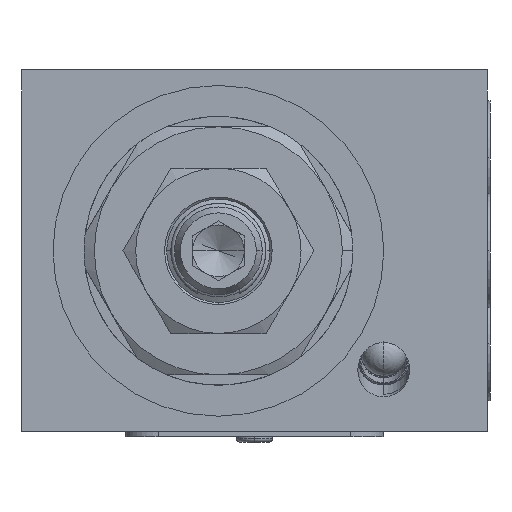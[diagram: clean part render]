
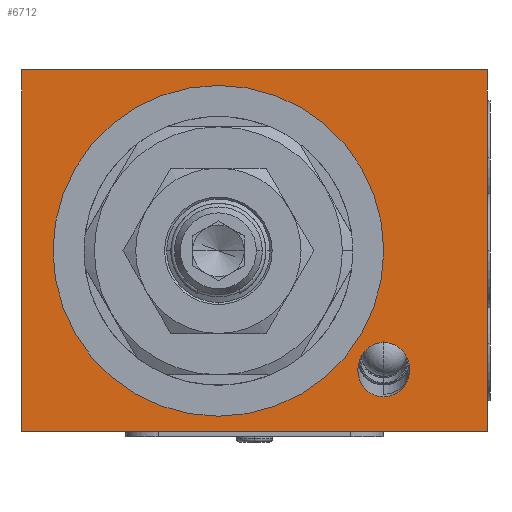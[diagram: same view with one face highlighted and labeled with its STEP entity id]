
A CAD part, left-side view. The second image highlights one B-rep face of the part: STEP entity #6712.
In plain terms, the highlighted planar face has unit normal (-1, 0, 0).
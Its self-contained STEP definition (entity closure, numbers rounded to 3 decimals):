
#60=DIRECTION('',(0.,1.,0.));
#61=VECTOR('',#60,35.);
#62=CARTESIAN_POINT('',(0.,0.,0.));
#63=LINE('',#62,#61);
#257=DIRECTION('',(0.,0.,1.));
#258=VECTOR('',#257,45.);
#259=CARTESIAN_POINT('',(0.,0.,-45.));
#260=LINE('',#259,#258);
#390=DIRECTION('',(0.,0.,1.));
#391=VECTOR('',#390,45.);
#392=CARTESIAN_POINT('',(0.,35.,-45.));
#393=LINE('',#392,#391);
#397=CARTESIAN_POINT('',(0.,8.629,-10.));
#398=CARTESIAN_POINT('',(0.,8.629,-9.786));
#399=CARTESIAN_POINT('',(0.,8.574,-9.413));
#400=CARTESIAN_POINT('',(0.,8.401,-8.946));
#401=CARTESIAN_POINT('',(0.,8.157,-8.548));
#402=CARTESIAN_POINT('',(0.,7.854,-8.21));
#403=CARTESIAN_POINT('',(0.,7.495,-7.928));
#404=CARTESIAN_POINT('',(0.,7.078,-7.704));
#405=CARTESIAN_POINT('',(0.,6.594,-7.547));
#406=CARTESIAN_POINT('',(0.,6.214,-7.5));
#407=CARTESIAN_POINT('',(0.,6.,-7.5));
#412=CARTESIAN_POINT('',(0.,17.5,-26.));
#413=DIRECTION('',(1.,0.,0.));
#414=DIRECTION('',(0.,-1.,0.));
#415=AXIS2_PLACEMENT_3D('',#412,#413,#414);
#420=CARTESIAN_POINT('',(0.,17.5,-26.));
#421=DIRECTION('',(1.,0.,0.));
#422=DIRECTION('',(0.,1.,0.));
#423=AXIS2_PLACEMENT_3D('',#420,#421,#422);
#449=DIRECTION('',(0.,1.,0.));
#450=VECTOR('',#449,35.);
#451=CARTESIAN_POINT('',(0.,0.,-45.));
#452=LINE('',#451,#450);
#5339=CARTESIAN_POINT('',(0.,6.,-7.5));
#5340=CARTESIAN_POINT('',(0.,5.798,-7.5));
#5341=CARTESIAN_POINT('',(0.,5.36,-7.544));
#5342=CARTESIAN_POINT('',(0.,4.656,-7.807));
#5343=CARTESIAN_POINT('',(0.,4.,-8.309));
#5344=CARTESIAN_POINT('',(0.,3.525,-9.025));
#5345=CARTESIAN_POINT('',(0.,3.329,-9.851));
#5346=CARTESIAN_POINT('',(0.,3.404,-10.514));
#5347=CARTESIAN_POINT('',(0.,3.571,-10.977));
#5348=CARTESIAN_POINT('',(0.,3.736,-11.285));
#5349=CARTESIAN_POINT('',(0.,3.897,-11.506));
#5350=CARTESIAN_POINT('',(0.,4.035,-11.663));
#5351=CARTESIAN_POINT('',(0.,4.14,-11.769));
#5352=CARTESIAN_POINT('',(0.,4.252,-11.869));
#5353=CARTESIAN_POINT('',(0.,4.416,-12.));
#5354=CARTESIAN_POINT('',(0.,4.649,-12.153));
#5355=CARTESIAN_POINT('',(0.,4.973,-12.311));
#5356=CARTESIAN_POINT('',(0.,5.46,-12.469));
#5357=CARTESIAN_POINT('',(0.,6.157,-12.541));
#5358=CARTESIAN_POINT('',(0.,7.025,-12.354));
#5359=CARTESIAN_POINT('',(0.,7.778,-11.902));
#5360=CARTESIAN_POINT('',(0.,8.305,-11.279));
#5361=CARTESIAN_POINT('',(0.,8.582,-10.608));
#5362=CARTESIAN_POINT('',(0.,8.629,-10.192));
#5363=CARTESIAN_POINT('',(0.,8.629,-10.));
#6007=CARTESIAN_POINT('',(0.,0.,0.));
#6009=VERTEX_POINT('',#6007);
#6012=CARTESIAN_POINT('',(0.,35.,0.));
#6013=VERTEX_POINT('',#6012);
#6015=CARTESIAN_POINT('',(0.,0.,-45.));
#6017=VERTEX_POINT('',#6015);
#6020=CARTESIAN_POINT('',(0.,35.,-45.));
#6021=VERTEX_POINT('',#6020);
#6108=VERTEX_POINT('',#397);
#6109=VERTEX_POINT('',#407);
#6337=CARTESIAN_POINT('',(0.,1.5,-26.));
#6338=VERTEX_POINT('',#6337);
#6339=CARTESIAN_POINT('',(0.,33.5,-26.));
#6340=VERTEX_POINT('',#6339);
#6688=CARTESIAN_POINT('',(0.,35.,0.));
#6689=DIRECTION('',(-1.,0.,0.));
#6690=DIRECTION('',(0.,-1.,0.));
#6691=AXIS2_PLACEMENT_3D('',#6688,#6689,#6690);
#6692=PLANE('',#6691);
#6693=ORIENTED_EDGE('',*,*,#6500,.F.);
#6694=ORIENTED_EDGE('',*,*,#6592,.F.);
#6696=ORIENTED_EDGE('',*,*,#6695,.T.);
#6697=ORIENTED_EDGE('',*,*,#6673,.T.);
#6698=EDGE_LOOP('',(#6693,#6694,#6696,#6697));
#6699=FACE_OUTER_BOUND('',#6698,.F.);
#6701=ORIENTED_EDGE('',*,*,#6700,.F.);
#6703=ORIENTED_EDGE('',*,*,#6702,.F.);
#6704=EDGE_LOOP('',(#6701,#6703));
#6705=FACE_BOUND('',#6704,.F.);
#6707=ORIENTED_EDGE('',*,*,#6706,.F.);
#6709=ORIENTED_EDGE('',*,*,#6708,.F.);
#6710=EDGE_LOOP('',(#6707,#6709));
#6711=FACE_BOUND('',#6710,.F.);
#408=B_SPLINE_CURVE_WITH_KNOTS('',3,(#397,#398,#399,#400,#401,#402,#403,#404,
#405,#406,#407),.UNSPECIFIED.,.F.,.F.,(4,1,1,1,1,1,1,1,4),(0.,0.125,0.25,
0.375,0.5,0.625,0.75,0.875,1.),.UNSPECIFIED.);
#416=CIRCLE('',#415,16.);
#424=CIRCLE('',#423,16.);
#5364=B_SPLINE_CURVE_WITH_KNOTS('',3,(#5339,#5340,#5341,#5342,#5343,#5344,#5345,
#5346,#5347,#5348,#5349,#5350,#5351,#5352,#5353,#5354,#5355,#5356,#5357,#5358,
#5359,#5360,#5361,#5362,#5363),.UNSPECIFIED.,.F.,.F.,(4,1,1,1,1,1,1,1,1,1,1,1,1,
1,1,1,1,1,1,1,1,1,4),(0.,0.063,0.125,0.188,0.25,0.313,0.375,
0.406,0.438,0.469,0.484,0.5,0.516,0.531,0.563,
0.594,0.625,0.688,0.75,0.813,0.875,0.938,1.),
.UNSPECIFIED.);
#6500=EDGE_CURVE('',#6009,#6013,#63,.T.);
#6592=EDGE_CURVE('',#6017,#6009,#260,.T.);
#6673=EDGE_CURVE('',#6021,#6013,#393,.T.);
#6695=EDGE_CURVE('',#6017,#6021,#452,.T.);
#6700=EDGE_CURVE('',#6109,#6108,#5364,.T.);
#6702=EDGE_CURVE('',#6108,#6109,#408,.T.);
#6706=EDGE_CURVE('',#6338,#6340,#416,.T.);
#6708=EDGE_CURVE('',#6340,#6338,#424,.T.);
#6712=ADVANCED_FACE('',(#6699,#6705,#6711),#6692,.T.);
